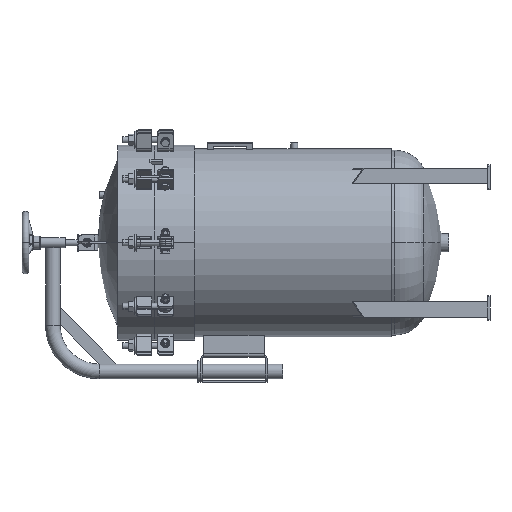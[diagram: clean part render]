
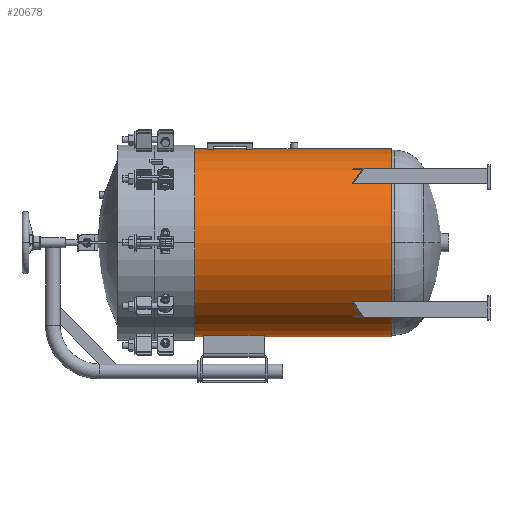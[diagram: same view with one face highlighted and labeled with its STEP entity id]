
A CAD part, left-side view. The second image highlights one B-rep face of the part: STEP entity #20678.
In plain terms, the highlighted cylindrical face has radius 387.35 mm (diameter 774.7 mm), a partial arc.
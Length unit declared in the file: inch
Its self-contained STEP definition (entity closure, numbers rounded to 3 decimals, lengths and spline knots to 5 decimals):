
#176 = CARTESIAN_POINT ( 'NONE',  ( 0., -6.5, 0. ) ) ;
#1693 = EDGE_CURVE ( 'NONE', #57954, #49546, #54265, .T. ) ;
#2525 = LINE ( 'NONE', #50484, #32922 ) ;
#2696 = EDGE_CURVE ( 'NONE', #5507, #65782, #21240, .T. ) ;
#2789 = AXIS2_PLACEMENT_3D ( 'NONE', #28765, #44400, #2879 ) ;
#2879 = DIRECTION ( 'NONE',  ( 0., 0., -1. ) ) ;
#3368 = CIRCLE ( 'NONE', #38100, 15.25 ) ;
#3964 = EDGE_CURVE ( 'NONE', #26254, #57954, #56391, .T. ) ;
#4343 = ORIENTED_EDGE ( 'NONE', *, *, #27937, .T. ) ;
#4525 = EDGE_CURVE ( 'NONE', #26254, #4543, #42491, .T. ) ;
#4543 = VERTEX_POINT ( 'NONE', #52882 ) ;
#4587 = CARTESIAN_POINT ( 'NONE',  ( -2.37926, -15.9375, 15.06325 ) ) ;
#5027 = ORIENTED_EDGE ( 'NONE', *, *, #38155, .F. ) ;
#5507 = VERTEX_POINT ( 'NONE', #48203 ) ;
#6136 = ORIENTED_EDGE ( 'NONE', *, *, #38171, .T. ) ;
#7984 = CARTESIAN_POINT ( 'NONE',  ( 0., -38.40625, 15.25 ) ) ;
#8073 = ORIENTED_EDGE ( 'NONE', *, *, #61359, .T. ) ;
#8074 = AXIS2_PLACEMENT_3D ( 'NONE', #60786, #45816, #29839 ) ;
#9307 = EDGE_CURVE ( 'NONE', #31356, #29581, #61314, .T. ) ;
#9486 = VERTEX_POINT ( 'NONE', #57696 ) ;
#10108 = DIRECTION ( 'NONE',  ( 0., 1., 0. ) ) ;
#12434 = AXIS2_PLACEMENT_3D ( 'NONE', #66912, #10108, #65570 ) ;
#12779 = CARTESIAN_POINT ( 'NONE',  ( 0., -15.9375, 0. ) ) ;
#13112 = FACE_OUTER_BOUND ( 'NONE', #34499, .T. ) ;
#13119 = DIRECTION ( 'NONE',  ( 0., -1., 0. ) ) ;
#13762 = DIRECTION ( 'NONE',  ( 0., 1., 0. ) ) ;
#14049 = CIRCLE ( 'NONE', #46666, 15.25 ) ;
#14220 = VECTOR ( 'NONE', #52509, 39.37008 ) ;
#14611 = CARTESIAN_POINT ( 'NONE',  ( 0., -38.40625, 0. ) ) ;
#15294 = ORIENTED_EDGE ( 'NONE', *, *, #4525, .F. ) ;
#15311 = CARTESIAN_POINT ( 'NONE',  ( -2.4413, -3.34375, 15.05332 ) ) ;
#16097 = EDGE_CURVE ( 'NONE', #31356, #26529, #2525, .T. ) ;
#17321 = DIRECTION ( 'NONE',  ( 0., -1., 0. ) ) ;
#17406 = AXIS2_PLACEMENT_3D ( 'NONE', #14611, #60870, #55762 ) ;
#17975 = ORIENTED_EDGE ( 'NONE', *, *, #9307, .T. ) ;
#18676 = CARTESIAN_POINT ( 'NONE',  ( 0., -3.34375, 15.25 ) ) ;
#18725 = EDGE_LOOP ( 'NONE', ( #48537, #6136, #36456, #17975 ) ) ;
#19630 = VECTOR ( 'NONE', #25475, 39.37008 ) ;
#20288 = CARTESIAN_POINT ( 'NONE',  ( 0., -38.40625, -15.25 ) ) ;
#20678 = ADVANCED_FACE ( 'NONE', ( #13112, #33868, #48819 ), #54591, .T. ) ;
#21103 = VECTOR ( 'NONE', #17321, 39.37008 ) ;
#21240 = LINE ( 'NONE', #31761, #14220 ) ;
#23141 = ORIENTED_EDGE ( 'NONE', *, *, #3964, .T. ) ;
#25475 = DIRECTION ( 'NONE',  ( 0., -1., 0. ) ) ;
#26254 = VERTEX_POINT ( 'NONE', #45142 ) ;
#26529 = VERTEX_POINT ( 'NONE', #33516 ) ;
#27937 = EDGE_CURVE ( 'NONE', #34372, #5507, #3368, .T. ) ;
#28765 = CARTESIAN_POINT ( 'NONE',  ( 0., -3.34375, 0. ) ) ;
#29581 = VERTEX_POINT ( 'NONE', #36139 ) ;
#29839 = DIRECTION ( 'NONE',  ( 0., 0., -1. ) ) ;
#30560 = CARTESIAN_POINT ( 'NONE',  ( 0., -3.34375, -15.25 ) ) ;
#31356 = VERTEX_POINT ( 'NONE', #48204 ) ;
#31470 = DIRECTION ( 'NONE',  ( -1., 0., 0. ) ) ;
#31620 = VERTEX_POINT ( 'NONE', #34255 ) ;
#31761 = CARTESIAN_POINT ( 'NONE',  ( -2.4413, -3.34375, 15.05332 ) ) ;
#32922 = VECTOR ( 'NONE', #13762, 39.37008 ) ;
#33516 = CARTESIAN_POINT ( 'NONE',  ( -2.37926, -8.5, 15.06325 ) ) ;
#33615 = LINE ( 'NONE', #18676, #21103 ) ;
#33868 = FACE_BOUND ( 'NONE', #57177, .T. ) ;
#33876 = DIRECTION ( 'NONE',  ( 0., 0., -1. ) ) ;
#34255 = CARTESIAN_POINT ( 'NONE',  ( -2.37926, -14.9375, 15.06325 ) ) ;
#34372 = VERTEX_POINT ( 'NONE', #58292 ) ;
#34499 = EDGE_LOOP ( 'NONE', ( #5027, #15294, #23141, #38054 ) ) ;
#34560 = LINE ( 'NONE', #4587, #54148 ) ;
#34994 = ORIENTED_EDGE ( 'NONE', *, *, #60529, .F. ) ;
#35227 = DIRECTION ( 'NONE',  ( 0., 1., 0. ) ) ;
#36039 = DIRECTION ( 'NONE',  ( 0., 1., 0. ) ) ;
#36139 = CARTESIAN_POINT ( 'NONE',  ( -2.4413, -9.5, 15.05332 ) ) ;
#36456 = ORIENTED_EDGE ( 'NONE', *, *, #16097, .F. ) ;
#37938 = EDGE_CURVE ( 'NONE', #29581, #9486, #61885, .T. ) ;
#38054 = ORIENTED_EDGE ( 'NONE', *, *, #1693, .T. ) ;
#38100 = AXIS2_PLACEMENT_3D ( 'NONE', #12779, #13119, #33876 ) ;
#38155 = EDGE_CURVE ( 'NONE', #4543, #49546, #33615, .T. ) ;
#38171 = EDGE_CURVE ( 'NONE', #9486, #26529, #53700, .T. ) ;
#41017 = DIRECTION ( 'NONE',  ( 0., 0., 1. ) ) ;
#42491 = CIRCLE ( 'NONE', #44668, 15.25 ) ;
#44400 = DIRECTION ( 'NONE',  ( 0., -1., 0. ) ) ;
#44668 = AXIS2_PLACEMENT_3D ( 'NONE', #176, #52232, #31470 ) ;
#45114 = CARTESIAN_POINT ( 'NONE',  ( 0., -14.9375, 0. ) ) ;
#45142 = CARTESIAN_POINT ( 'NONE',  ( 0., -6.5, -15.25 ) ) ;
#45816 = DIRECTION ( 'NONE',  ( 0., -1., 0. ) ) ;
#46666 = AXIS2_PLACEMENT_3D ( 'NONE', #45114, #61754, #41017 ) ;
#48203 = CARTESIAN_POINT ( 'NONE',  ( -2.4413, -15.9375, 15.05332 ) ) ;
#48204 = CARTESIAN_POINT ( 'NONE',  ( -2.37926, -9.5, 15.06325 ) ) ;
#48537 = ORIENTED_EDGE ( 'NONE', *, *, #37938, .T. ) ;
#48819 = FACE_BOUND ( 'NONE', #18725, .T. ) ;
#49546 = VERTEX_POINT ( 'NONE', #7984 ) ;
#49877 = ORIENTED_EDGE ( 'NONE', *, *, #2696, .T. ) ;
#50484 = CARTESIAN_POINT ( 'NONE',  ( -2.37926, -15.9375, 15.06325 ) ) ;
#52232 = DIRECTION ( 'NONE',  ( 0., 1., 0. ) ) ;
#52509 = DIRECTION ( 'NONE',  ( 0., 1., 0. ) ) ;
#52882 = CARTESIAN_POINT ( 'NONE',  ( 0., -6.5, 15.25 ) ) ;
#53700 = CIRCLE ( 'NONE', #12434, 15.25 ) ;
#54148 = VECTOR ( 'NONE', #35227, 39.37008 ) ;
#54265 = CIRCLE ( 'NONE', #17406, 15.25 ) ;
#54591 = CYLINDRICAL_SURFACE ( 'NONE', #2789, 15.25 ) ;
#55762 = DIRECTION ( 'NONE',  ( 1., 0., 0. ) ) ;
#56391 = LINE ( 'NONE', #30560, #19630 ) ;
#57177 = EDGE_LOOP ( 'NONE', ( #34994, #4343, #49877, #8073 ) ) ;
#57696 = CARTESIAN_POINT ( 'NONE',  ( -2.4413, -8.5, 15.05332 ) ) ;
#57954 = VERTEX_POINT ( 'NONE', #20288 ) ;
#58292 = CARTESIAN_POINT ( 'NONE',  ( -2.37926, -15.9375, 15.06325 ) ) ;
#60529 = EDGE_CURVE ( 'NONE', #34372, #31620, #34560, .T. ) ;
#60786 = CARTESIAN_POINT ( 'NONE',  ( 0., -9.5, 0. ) ) ;
#60870 = DIRECTION ( 'NONE',  ( 0., 1., 0. ) ) ;
#61314 = CIRCLE ( 'NONE', #8074, 15.25 ) ;
#61359 = EDGE_CURVE ( 'NONE', #65782, #31620, #14049, .T. ) ;
#61754 = DIRECTION ( 'NONE',  ( 0., 1., 0. ) ) ;
#61885 = LINE ( 'NONE', #15311, #65653 ) ;
#64556 = CARTESIAN_POINT ( 'NONE',  ( -2.4413, -14.9375, 15.05332 ) ) ;
#65570 = DIRECTION ( 'NONE',  ( 0., 0., 1. ) ) ;
#65653 = VECTOR ( 'NONE', #36039, 39.37008 ) ;
#65782 = VERTEX_POINT ( 'NONE', #64556 ) ;
#66912 = CARTESIAN_POINT ( 'NONE',  ( 0., -8.5, 0. ) ) ;
